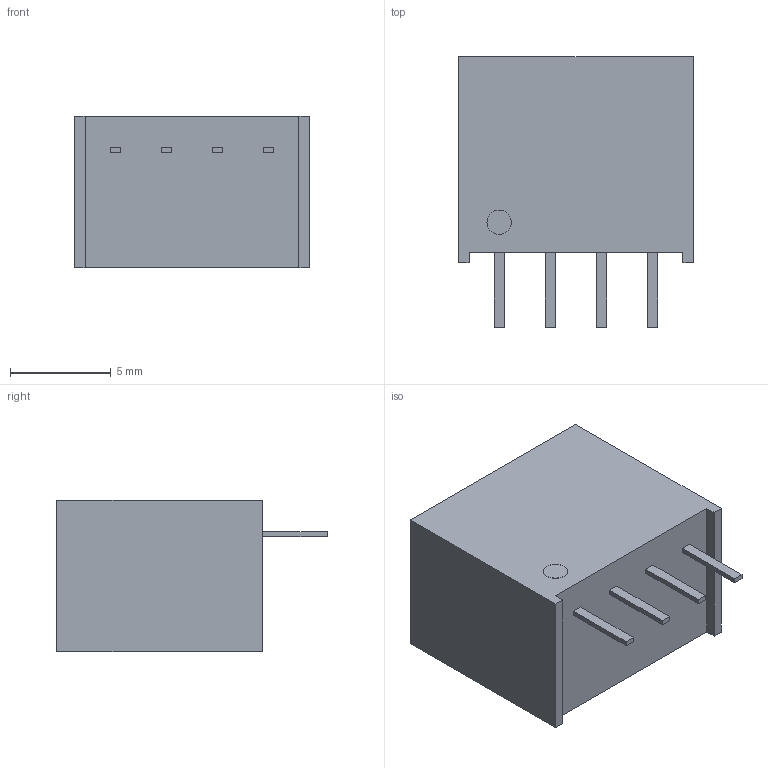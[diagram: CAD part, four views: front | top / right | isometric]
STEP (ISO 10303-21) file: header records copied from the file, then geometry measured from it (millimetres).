
FILE_DESCRIPTION (( 'STEP AP203' ), '1' );
FILE_NAME ('EC1TAN 24V 2025.02.17.STEP', '2025-02-18T02:08:35', ( '' ), ( '' ), 'SwSTEP 2.0', 'SolidWorks 2020', '' );
FILE_SCHEMA (( 'CONFIG_CONTROL_DESIGN' ));
Length unit declared in the file: millimetre
Products named in the file (1): EC1TAN 24V 2025.02.17
Bounding box: 11.6 x 13.4 x 7.5 mm (x, y, z)
Volume: 849.5 mm3; surface area: 582.8 mm2
Topology: 1 solids, 1 shells, 32 faces, 75 edges, 50 vertices
Faces by surface type: plane 31, cylinder 1
Full cylindrical faces by diameter (mm): 1.2 x1
Entity records: 973 total; most frequent: CARTESIAN_POINT 157, ORIENTED_EDGE 148, DIRECTION 142, EDGE_CURVE 74, VECTOR 72, LINE 72, VERTEX_POINT 50, EDGE_LOOP 38
